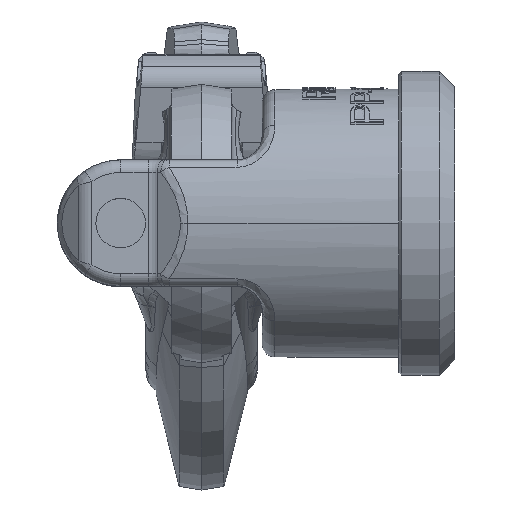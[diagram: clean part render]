
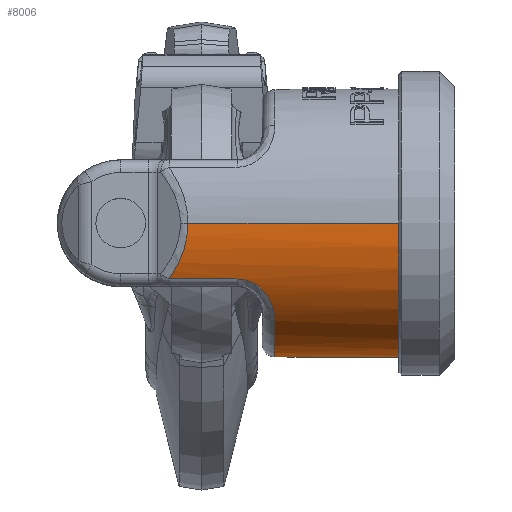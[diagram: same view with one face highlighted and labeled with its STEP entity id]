
A CAD part, top view. The second image highlights one B-rep face of the part: STEP entity #8006.
In plain terms, the highlighted cylindrical face has radius 26.5 mm (diameter 53 mm), a partial arc.
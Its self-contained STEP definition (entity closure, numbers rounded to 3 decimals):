
#6=CARTESIAN_POINT('',(70.5,0.,0.));
#7=DIRECTION('',(1.,0.,0.));
#8=DIRECTION('',(0.,0.,1.));
#9=AXIS2_PLACEMENT_3D('',#6,#7,#8);
#60=DIRECTION('',(1.,0.,0.));
#61=VECTOR('',#60,44.696);
#62=CARTESIAN_POINT('',(25.804,0.,
-26.5));
#63=LINE('',#62,#61);
#2384=CARTESIAN_POINT('',(35.5,-11.042,24.09));
#2385=CARTESIAN_POINT('',(35.908,-11.042,24.09));
#2386=CARTESIAN_POINT('',(36.718,-11.114,24.057));
#2387=CARTESIAN_POINT('',(37.934,-11.449,23.901));
#2388=CARTESIAN_POINT('',(39.082,-12.003,23.63));
#2389=CARTESIAN_POINT('',(40.155,-12.778,23.223));
#2390=CARTESIAN_POINT('',(41.115,-13.768,22.654));
#2391=CARTESIAN_POINT('',(41.918,-14.953,21.896));
#2392=CARTESIAN_POINT('',(42.547,-16.335,20.897));
#2393=CARTESIAN_POINT('',(42.938,-17.93,19.55));
#2394=CARTESIAN_POINT('',(43.,-18.866,18.622));
#2395=CARTESIAN_POINT('',(43.,-19.323,18.135));
#2397=DIRECTION('',(1.,0.,0.));
#2398=VECTOR('',#2397,13.398);
#2399=CARTESIAN_POINT('',(22.102,-11.042,24.09));
#2400=LINE('',#2399,#2398);
#2401=CARTESIAN_POINT('',(25.804,0.,
26.5));
#2402=CARTESIAN_POINT('',(25.804,-0.587,
26.5));
#2403=CARTESIAN_POINT('',(25.743,-1.763,26.46));
#2404=CARTESIAN_POINT('',(25.481,-3.484,26.29));
#2405=CARTESIAN_POINT('',(25.023,-5.278,25.991));
#2406=CARTESIAN_POINT('',(24.334,-7.15,25.543));
#2407=CARTESIAN_POINT('',(23.374,-9.099,24.918));
#2408=CARTESIAN_POINT('',(22.558,-10.395,24.386));
#2409=CARTESIAN_POINT('',(22.102,-11.042,24.09));
#2411=DIRECTION('',(1.,0.,0.));
#2412=VECTOR('',#2411,44.696);
#2413=CARTESIAN_POINT('',(25.804,0.,
26.5));
#2414=LINE('',#2413,#2412);
#2415=CARTESIAN_POINT('',(22.102,-11.042,
-24.09));
#2416=CARTESIAN_POINT('',(22.536,-10.425,
-24.373));
#2417=CARTESIAN_POINT('',(23.316,-9.192,
-24.88));
#2418=CARTESIAN_POINT('',(24.232,-7.373,
-25.476));
#2419=CARTESIAN_POINT('',(24.915,-5.601,
-25.922));
#2420=CARTESIAN_POINT('',(25.403,-3.855,
-26.239));
#2421=CARTESIAN_POINT('',(25.727,-1.977,
-26.45));
#2422=CARTESIAN_POINT('',(25.804,-0.669,
-26.5));
#2423=CARTESIAN_POINT('',(25.804,0.,
-26.5));
#2425=DIRECTION('',(-1.,0.,0.));
#2426=VECTOR('',#2425,13.398);
#2427=CARTESIAN_POINT('',(35.5,-11.042,
-24.09));
#2428=LINE('',#2427,#2426);
#2429=CARTESIAN_POINT('',(43.,-19.323,-18.135));
#2430=CARTESIAN_POINT('',(43.,-18.866,
-18.622));
#2431=CARTESIAN_POINT('',(42.938,-17.93,
-19.55));
#2432=CARTESIAN_POINT('',(42.547,-16.335,
-20.897));
#2433=CARTESIAN_POINT('',(41.918,-14.953,
-21.896));
#2434=CARTESIAN_POINT('',(41.115,-13.768,
-22.655));
#2435=CARTESIAN_POINT('',(40.155,-12.777,
-23.223));
#2436=CARTESIAN_POINT('',(39.082,-12.003,
-23.63));
#2437=CARTESIAN_POINT('',(37.934,-11.449,
-23.901));
#2438=CARTESIAN_POINT('',(36.718,-11.114,
-24.057));
#2439=CARTESIAN_POINT('',(35.908,-11.042,
-24.09));
#2440=CARTESIAN_POINT('',(35.5,-11.042,
-24.09));
#2442=CARTESIAN_POINT('',(43.,0.,0.));
#2443=DIRECTION('',(1.,0.,0.));
#2444=DIRECTION('',(0.,-0.729,0.684));
#2445=AXIS2_PLACEMENT_3D('',#2442,#2443,#2444);
#4585=CARTESIAN_POINT('',(70.5,0.,-26.5));
#4586=CARTESIAN_POINT('',(70.5,0.,26.5));
#4587=VERTEX_POINT('',#4585);
#4588=VERTEX_POINT('',#4586);
#4589=CARTESIAN_POINT('',(25.804,0.,
-26.5));
#4590=VERTEX_POINT('',#4589);
#4591=CARTESIAN_POINT('',(25.804,0.,
26.5));
#4592=VERTEX_POINT('',#4591);
#4599=VERTEX_POINT('',#2384);
#4600=VERTEX_POINT('',#2395);
#4601=CARTESIAN_POINT('',(22.102,-11.042,24.09));
#4602=VERTEX_POINT('',#4601);
#4625=VERTEX_POINT('',#2429);
#4626=VERTEX_POINT('',#2440);
#4631=CARTESIAN_POINT('',(22.102,-11.042,
-24.09));
#4632=VERTEX_POINT('',#4631);
#7984=CARTESIAN_POINT('',(0.,0.,0.));
#7985=DIRECTION('',(1.,0.,0.));
#7986=DIRECTION('',(0.,0.,-1.));
#7987=AXIS2_PLACEMENT_3D('',#7984,#7985,#7986);
#7988=CYLINDRICAL_SURFACE('',#7987,26.5);
#7989=ORIENTED_EDGE('',*,*,#7847,.F.);
#7990=ORIENTED_EDGE('',*,*,#7859,.F.);
#7992=ORIENTED_EDGE('',*,*,#7991,.F.);
#7993=ORIENTED_EDGE('',*,*,#5489,.T.);
#7994=ORIENTED_EDGE('',*,*,#5464,.T.);
#7995=ORIENTED_EDGE('',*,*,#5486,.F.);
#7997=ORIENTED_EDGE('',*,*,#7996,.F.);
#7999=ORIENTED_EDGE('',*,*,#7998,.F.);
#8001=ORIENTED_EDGE('',*,*,#8000,.F.);
#8003=ORIENTED_EDGE('',*,*,#8002,.F.);
#8004=EDGE_LOOP('',(#7989,#7990,#7992,#7993,#7994,#7995,#7997,#7999,#8001,
#8003));
#8005=FACE_OUTER_BOUND('',#8004,.F.);
#8006=ADVANCED_FACE('',(#8005),#7988,.T.);
#10=CIRCLE('',#9,26.5);
#2396=B_SPLINE_CURVE_WITH_KNOTS('',3,(#2384,#2385,#2386,#2387,#2388,#2389,#2390,
#2391,#2392,#2393,#2394,#2395),.UNSPECIFIED.,.F.,.F.,(4,1,1,1,1,1,1,1,1,4),
(0.,0.111,0.222,0.333,0.444,
0.556,0.667,0.778,0.889,1.),
.UNSPECIFIED.);
#2410=B_SPLINE_CURVE_WITH_KNOTS('',3,(#2401,#2402,#2403,#2404,#2405,#2406,#2407,
#2408,#2409),.UNSPECIFIED.,.F.,.F.,(4,1,1,1,1,1,4),(0.,0.167,
0.333,0.5,0.667,0.833,1.),
.UNSPECIFIED.);
#2424=B_SPLINE_CURVE_WITH_KNOTS('',3,(#2415,#2416,#2417,#2418,#2419,#2420,#2421,
#2422,#2423),.UNSPECIFIED.,.F.,.F.,(4,1,1,1,1,1,4),(0.,0.167,
0.333,0.5,0.667,0.833,1.),
.UNSPECIFIED.);
#2441=B_SPLINE_CURVE_WITH_KNOTS('',3,(#2429,#2430,#2431,#2432,#2433,#2434,#2435,
#2436,#2437,#2438,#2439,#2440),.UNSPECIFIED.,.F.,.F.,(4,1,1,1,1,1,1,1,1,4),
(0.,0.111,0.222,0.333,0.444,
0.556,0.667,0.778,0.889,1.),
.UNSPECIFIED.);
#2446=CIRCLE('',#2445,26.5);
#5464=EDGE_CURVE('',#4588,#4587,#10,.T.);
#5486=EDGE_CURVE('',#4590,#4587,#63,.T.);
#5489=EDGE_CURVE('',#4592,#4588,#2414,.T.);
#7847=EDGE_CURVE('',#4599,#4600,#2396,.T.);
#7859=EDGE_CURVE('',#4602,#4599,#2400,.T.);
#7991=EDGE_CURVE('',#4592,#4602,#2410,.T.);
#7996=EDGE_CURVE('',#4632,#4590,#2424,.T.);
#7998=EDGE_CURVE('',#4626,#4632,#2428,.T.);
#8000=EDGE_CURVE('',#4625,#4626,#2441,.T.);
#8002=EDGE_CURVE('',#4600,#4625,#2446,.T.);
